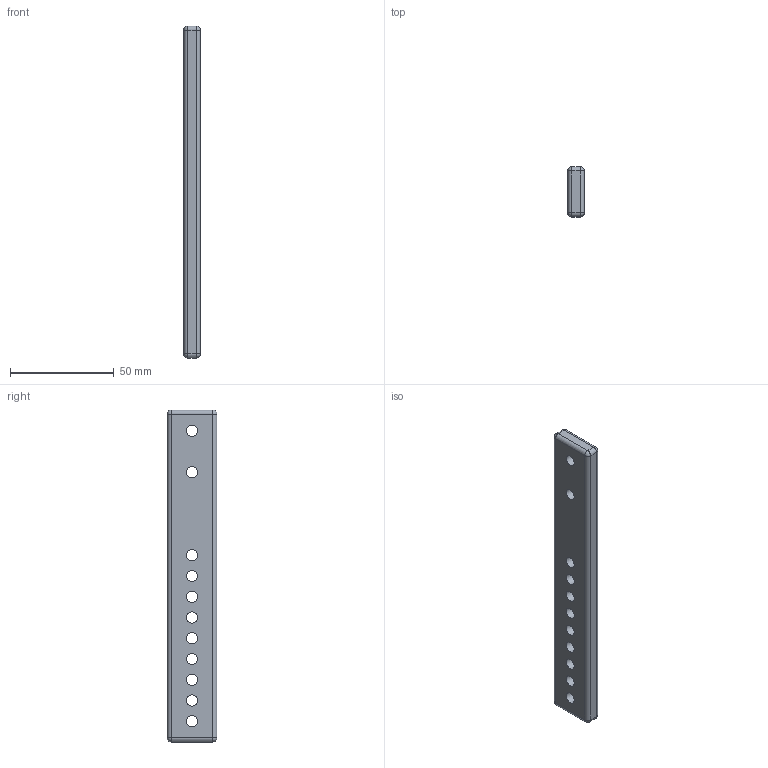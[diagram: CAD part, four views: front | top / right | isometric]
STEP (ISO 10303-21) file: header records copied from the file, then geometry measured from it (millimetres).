
FILE_DESCRIPTION(('Open CASCADE Model'),'2;1');
FILE_NAME('Open CASCADE Shape Model','2026-11-04T08:45:13',('Author'),( 'Open CASCADE'),'Open CASCADE STEP processor 7.8','Open CASCADE 7.8' ,'Unknown');
FILE_SCHEMA(('AUTOMOTIVE_DESIGN { 1 0 10303 214 1 1 1 1 }'));
Length unit declared in the file: millimetre
Products named in the file (1): Open CASCADE STEP translator 7.8 3
Bounding box: 8 x 24 x 160 mm (x, y, z)
Volume: 27980.7 mm3; surface area: 10958.1 mm2
Topology: 1 solids, 1 shells, 37 faces, 89 edges, 46 vertices
Faces by surface type: cylinder 23, sphere 8, plane 6
Full cylindrical faces by diameter (mm): 5.5 x11
Entity records: 2116 total; most frequent: DIRECTION 365, CARTESIAN_POINT 327, LINE 175, VECTOR 175, ORIENTED_EDGE 162, PCURVE 162, DEFINITIONAL_REPRESENTATION 162, AXIS2_PLACEMENT_3D 84
